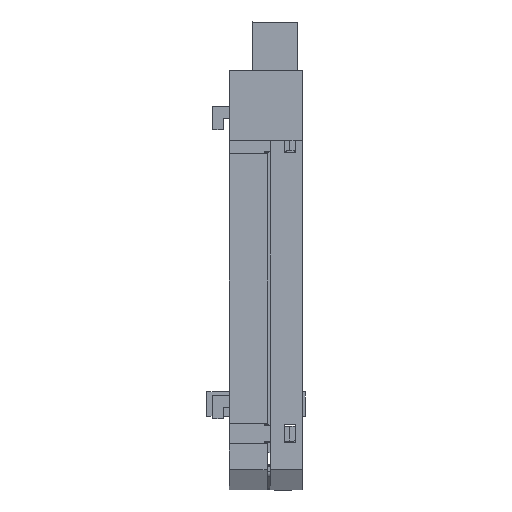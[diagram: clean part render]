
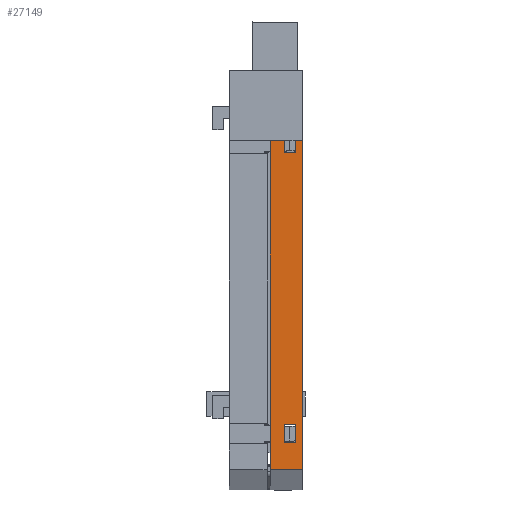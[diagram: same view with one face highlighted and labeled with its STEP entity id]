
A CAD part, front view. The second image highlights one B-rep face of the part: STEP entity #27149.
In plain terms, the highlighted planar face has unit normal (0, -1, 0).
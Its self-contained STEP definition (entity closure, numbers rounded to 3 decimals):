
#418 = VECTOR ( 'NONE', #7396, 1000. ) ;
#602 = CARTESIAN_POINT ( 'NONE',  ( 2.4, 0., -10.945 ) ) ;
#764 = DIRECTION ( 'NONE',  ( -1., 0., 0. ) ) ;
#1161 = VECTOR ( 'NONE', #26328, 1000. ) ;
#1280 = VECTOR ( 'NONE', #2274, 1000. ) ;
#1480 = ORIENTED_EDGE ( 'NONE', *, *, #30216, .T. ) ;
#1946 = EDGE_CURVE ( 'NONE', #22472, #19467, #19548, .T. ) ;
#1983 = FACE_BOUND ( 'NONE', #6255, .T. ) ;
#2081 = CARTESIAN_POINT ( 'NONE',  ( 0., 0., 0. ) ) ;
#2092 = EDGE_CURVE ( 'NONE', #13652, #9195, #15339, .T. ) ;
#2274 = DIRECTION ( 'NONE',  ( 0., 0., -1. ) ) ;
#3530 = VECTOR ( 'NONE', #26820, 1000. ) ;
#3830 = VECTOR ( 'NONE', #27785, 1000. ) ;
#4030 = DIRECTION ( 'NONE',  ( 0., 0., 1. ) ) ;
#4063 = EDGE_LOOP ( 'NONE', ( #9677, #9529, #17279, #29045 ) ) ;
#4162 = VERTEX_POINT ( 'NONE', #13630 ) ;
#5046 = EDGE_CURVE ( 'NONE', #31367, #10201, #15164, .T. ) ;
#5523 = DIRECTION ( 'NONE',  ( 1., 0., 0. ) ) ;
#5627 = CARTESIAN_POINT ( 'NONE',  ( 2.4, 0., -57.545 ) ) ;
#5829 = LINE ( 'NONE', #24385, #3530 ) ;
#6248 = CARTESIAN_POINT ( 'NONE',  ( 4.4, 0., -7.845 ) ) ;
#6255 = EDGE_LOOP ( 'NONE', ( #23055, #28821, #26675, #10512 ) ) ;
#7067 = EDGE_CURVE ( 'NONE', #4162, #22472, #22147, .T. ) ;
#7396 = DIRECTION ( 'NONE',  ( -1., 0., 0. ) ) ;
#7494 = ORIENTED_EDGE ( 'NONE', *, *, #30762, .T. ) ;
#7627 = LINE ( 'NONE', #2081, #1161 ) ;
#8038 = CARTESIAN_POINT ( 'NONE',  ( 5.5, 0., 0. ) ) ;
#8831 = EDGE_CURVE ( 'NONE', #17429, #13652, #31153, .T. ) ;
#9195 = VERTEX_POINT ( 'NONE', #13375 ) ;
#9529 = ORIENTED_EDGE ( 'NONE', *, *, #5046, .F. ) ;
#9677 = ORIENTED_EDGE ( 'NONE', *, *, #22691, .T. ) ;
#10089 = CARTESIAN_POINT ( 'NONE',  ( 2.4, 0., -60.645 ) ) ;
#10201 = VERTEX_POINT ( 'NONE', #13537 ) ;
#10382 = ORIENTED_EDGE ( 'NONE', *, *, #7067, .T. ) ;
#10512 = ORIENTED_EDGE ( 'NONE', *, *, #8831, .T. ) ;
#10621 = ORIENTED_EDGE ( 'NONE', *, *, #1946, .T. ) ;
#10706 = CARTESIAN_POINT ( 'NONE',  ( 4.4, 0., -60.645 ) ) ;
#10786 = CARTESIAN_POINT ( 'NONE',  ( 2.4, 0., -60.645 ) ) ;
#11053 = LINE ( 'NONE', #25703, #29604 ) ;
#11210 = AXIS2_PLACEMENT_3D ( 'NONE', #8038, #27361, #12893 ) ;
#12117 = VERTEX_POINT ( 'NONE', #23166 ) ;
#12547 = CARTESIAN_POINT ( 'NONE',  ( 2.4, 0., -57.545 ) ) ;
#12893 = DIRECTION ( 'NONE',  ( 0., 0., 1. ) ) ;
#12982 = LINE ( 'NONE', #5627, #19432 ) ;
#13375 = CARTESIAN_POINT ( 'NONE',  ( 2.4, 0., -7.845 ) ) ;
#13508 = VECTOR ( 'NONE', #764, 1000. ) ;
#13537 = CARTESIAN_POINT ( 'NONE',  ( 0., 0., -65.25 ) ) ;
#13630 = CARTESIAN_POINT ( 'NONE',  ( 4.4, 0., -57.545 ) ) ;
#13652 = VERTEX_POINT ( 'NONE', #602 ) ;
#14113 = FACE_OUTER_BOUND ( 'NONE', #4063, .T. ) ;
#14917 = VECTOR ( 'NONE', #24821, 1000. ) ;
#15164 = LINE ( 'NONE', #29732, #27276 ) ;
#15268 = CARTESIAN_POINT ( 'NONE',  ( 5.5, 0., 0. ) ) ;
#15286 = CARTESIAN_POINT ( 'NONE',  ( 2.4, 0., -60.645 ) ) ;
#15339 = LINE ( 'NONE', #20980, #28221 ) ;
#15376 = EDGE_LOOP ( 'NONE', ( #10621, #1480, #7494, #10382 ) ) ;
#15667 = EDGE_CURVE ( 'NONE', #29317, #17429, #5829, .T. ) ;
#16734 = LINE ( 'NONE', #25400, #3830 ) ;
#16779 = CARTESIAN_POINT ( 'NONE',  ( 4.4, 0., -60.645 ) ) ;
#17279 = ORIENTED_EDGE ( 'NONE', *, *, #31279, .F. ) ;
#17429 = VERTEX_POINT ( 'NONE', #26581 ) ;
#17558 = DIRECTION ( 'NONE',  ( -1., 0., 0. ) ) ;
#17653 = PLANE ( 'NONE',  #11210 ) ;
#19214 = LINE ( 'NONE', #15268, #13508 ) ;
#19432 = VECTOR ( 'NONE', #5523, 1000. ) ;
#19467 = VERTEX_POINT ( 'NONE', #10089 ) ;
#19548 = LINE ( 'NONE', #10786, #25218 ) ;
#20550 = FACE_BOUND ( 'NONE', #15376, .T. ) ;
#20633 = EDGE_CURVE ( 'NONE', #12117, #29900, #19214, .T. ) ;
#20980 = CARTESIAN_POINT ( 'NONE',  ( 2.4, 0., -10.945 ) ) ;
#21917 = CARTESIAN_POINT ( 'NONE',  ( 2.4, 0., -10.945 ) ) ;
#22143 = LINE ( 'NONE', #15286, #14917 ) ;
#22147 = LINE ( 'NONE', #16779, #1280 ) ;
#22472 = VERTEX_POINT ( 'NONE', #10706 ) ;
#22568 = EDGE_CURVE ( 'NONE', #9195, #29317, #11053, .T. ) ;
#22691 = EDGE_CURVE ( 'NONE', #29900, #10201, #7627, .T. ) ;
#23055 = ORIENTED_EDGE ( 'NONE', *, *, #2092, .T. ) ;
#23166 = CARTESIAN_POINT ( 'NONE',  ( 5.5, 0., 0. ) ) ;
#24385 = CARTESIAN_POINT ( 'NONE',  ( 4.4, 0., -10.945 ) ) ;
#24550 = VERTEX_POINT ( 'NONE', #12547 ) ;
#24821 = DIRECTION ( 'NONE',  ( 0., 0., 1. ) ) ;
#25218 = VECTOR ( 'NONE', #25284, 1000. ) ;
#25284 = DIRECTION ( 'NONE',  ( -1., 0., 0. ) ) ;
#25400 = CARTESIAN_POINT ( 'NONE',  ( 5.5, 0., 0. ) ) ;
#25703 = CARTESIAN_POINT ( 'NONE',  ( 2.4, 0., -7.845 ) ) ;
#26328 = DIRECTION ( 'NONE',  ( 0., 0., -1. ) ) ;
#26581 = CARTESIAN_POINT ( 'NONE',  ( 4.4, 0., -10.945 ) ) ;
#26675 = ORIENTED_EDGE ( 'NONE', *, *, #15667, .T. ) ;
#26820 = DIRECTION ( 'NONE',  ( 0., 0., -1. ) ) ;
#27149 = ADVANCED_FACE ( 'NONE', ( #1983, #20550, #14113 ), #17653, .F. ) ;
#27276 = VECTOR ( 'NONE', #17558, 1000. ) ;
#27361 = DIRECTION ( 'NONE',  ( 0., 1., 0. ) ) ;
#27785 = DIRECTION ( 'NONE',  ( 0., 0., -1. ) ) ;
#28120 = DIRECTION ( 'NONE',  ( 1., 0., 0. ) ) ;
#28221 = VECTOR ( 'NONE', #4030, 1000. ) ;
#28821 = ORIENTED_EDGE ( 'NONE', *, *, #22568, .T. ) ;
#29045 = ORIENTED_EDGE ( 'NONE', *, *, #20633, .T. ) ;
#29317 = VERTEX_POINT ( 'NONE', #6248 ) ;
#29604 = VECTOR ( 'NONE', #28120, 1000. ) ;
#29732 = CARTESIAN_POINT ( 'NONE',  ( 5.5, 0., -65.25 ) ) ;
#29900 = VERTEX_POINT ( 'NONE', #30577 ) ;
#30216 = EDGE_CURVE ( 'NONE', #19467, #24550, #22143, .T. ) ;
#30478 = CARTESIAN_POINT ( 'NONE',  ( 5.5, 0., -65.25 ) ) ;
#30577 = CARTESIAN_POINT ( 'NONE',  ( 0., 0., 0. ) ) ;
#30762 = EDGE_CURVE ( 'NONE', #24550, #4162, #12982, .T. ) ;
#31153 = LINE ( 'NONE', #21917, #418 ) ;
#31279 = EDGE_CURVE ( 'NONE', #12117, #31367, #16734, .T. ) ;
#31367 = VERTEX_POINT ( 'NONE', #30478 ) ;
